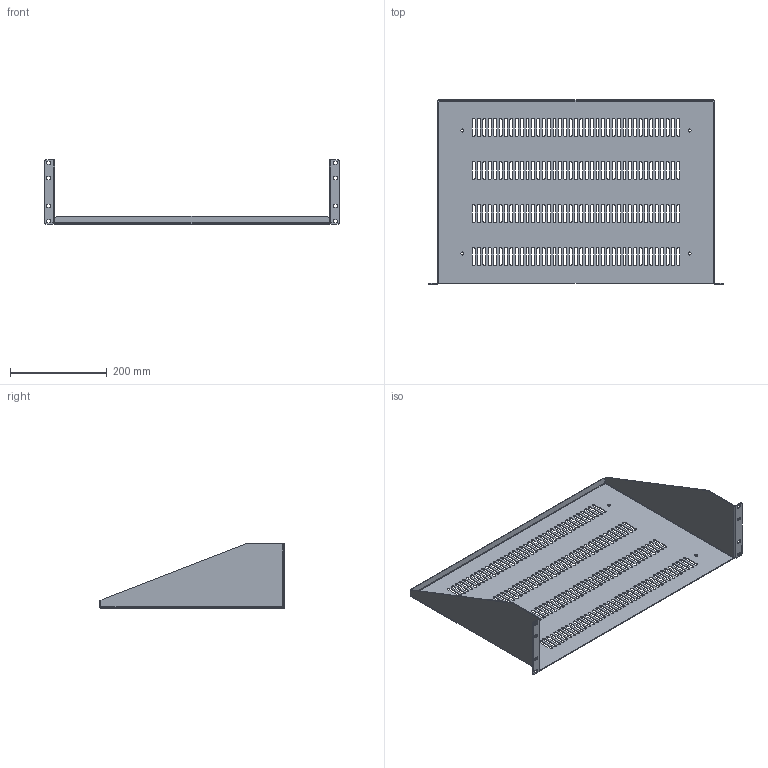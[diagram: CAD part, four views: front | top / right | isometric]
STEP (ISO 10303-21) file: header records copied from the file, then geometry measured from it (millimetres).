
FILE_DESCRIPTION( ( 'Unknown' ), '1' );
FILE_NAME( 'Q:/ACCESSORIES/SHELVES/RK _ RMA/WEB DRAWINGS/STEP/RASV240515.stp', 'Unknown', ( 'Unknown' ), ( 'Unknown' ), 'PSStep 10.1', 'Unknown', ' ' );
FILE_SCHEMA( ( 'AUTOMOTIVE_DESIGN { 1 0 10303 214 1 1 1 1 }' ) );
Length unit declared in the file: millimetre
Products named in the file (1): 1
Bounding box: 609.75 x 381 x 132.54 mm (x, y, z)
Volume: 471896 mm3; surface area: 544580.2 mm2
Topology: 1 solids, 1 shells, 724 faces, 2146 edges, 1424 vertices
Faces by surface type: plane 368, cylinder 352, bspline 4
Full cylindrical faces by diameter (mm): 6.35 x4
Entity records: 25285 total; most frequent: CARTESIAN_POINT 4587, ORIENTED_EDGE 4284, DIRECTION 4268, EDGE_CURVE 2142, AXIS2_PLACEMENT_3D 1425, VERTEX_POINT 1424, LINE 1418, VECTOR 1418
